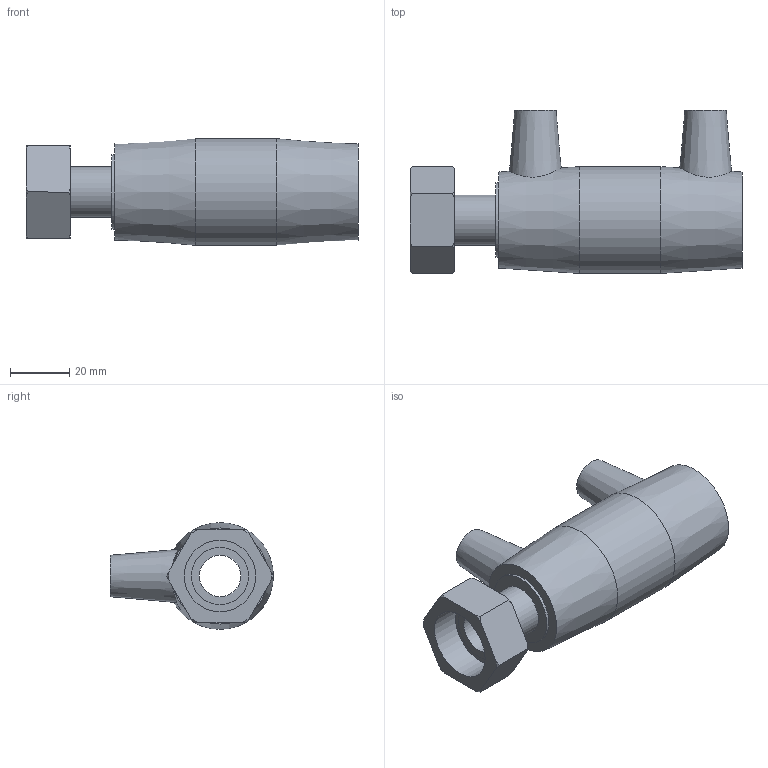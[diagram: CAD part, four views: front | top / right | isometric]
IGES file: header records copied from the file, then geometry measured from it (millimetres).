
Global section: file name: 494104025007.ipt; native system: Autodesk Inventor 2015; preprocessor: unknown; author: KIM; date: 20180426.120755; units: millimetre
Bounding box: 112 x 55.09 x 36 mm (x, y, z)
Volume: 66567.5 mm3; surface area: 24871.1 mm2
Topology: 1 solids, 2 shells, 54 faces, 128 edges, 88 vertices
Faces by surface type: plane 22, cone 16, revolution 9, cylinder 7
Full cylindrical faces by diameter (mm): 4 x2, 16.882 x1, 19.294 x1, 25 x2, 36 x1
